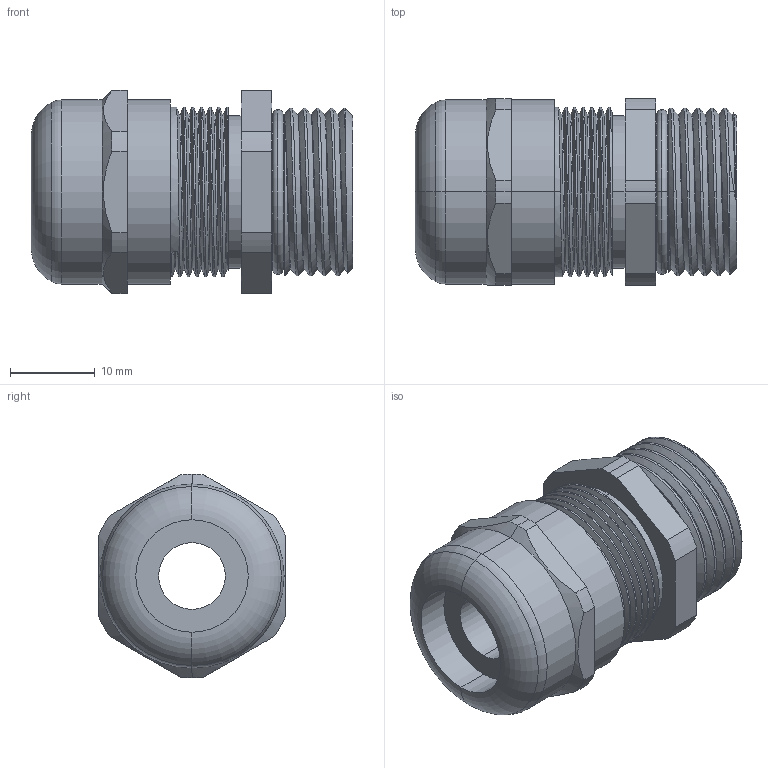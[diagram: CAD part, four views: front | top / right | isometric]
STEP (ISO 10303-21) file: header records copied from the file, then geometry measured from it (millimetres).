
FILE_DESCRIPTION (( 'STEP AP214' ), '1' );
FILE_NAME ('MCGB-M20L.STEP', '2007-02-13T12:22:38', ( 'Bruce Mistarz' ), ( 'Mencom Corp' ), 'SwSTEP 2.0', 'SolidWorks 2007', '' );
FILE_SCHEMA (( 'AUTOMOTIVE_DESIGN' ));
Length unit declared in the file: inch
Products named in the file (1): MCGB-M20L
Bounding box: 37.86 x 22 x 24 mm (x, y, z)
Volume: 8130.1 mm3; surface area: 5735.4 mm2
Topology: 2 solids, 2 shells, 101 faces, 256 edges, 166 vertices
Faces by surface type: cylinder 55, plane 25, torus 8, bspline 8, cone 5
Entity records: 6548 total; most frequent: CARTESIAN_POINT 2904, ORIENTED_EDGE 512, DIRECTION 455, EDGE_CURVE 256, AXIS2_PLACEMENT_3D 179, VERTEX_POINT 166, EDGE_LOOP 112, DIMENSIONAL_EXPONENTS 104
